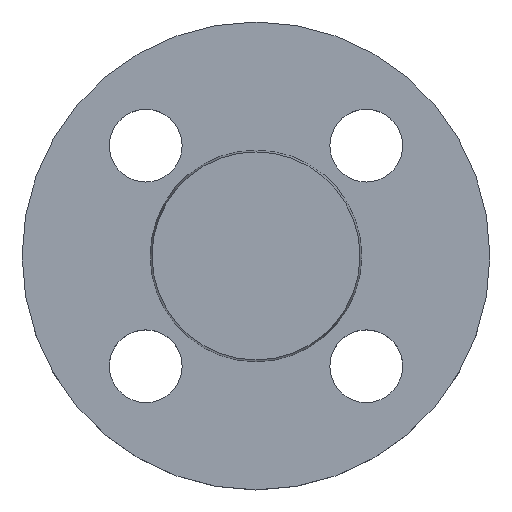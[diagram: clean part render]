
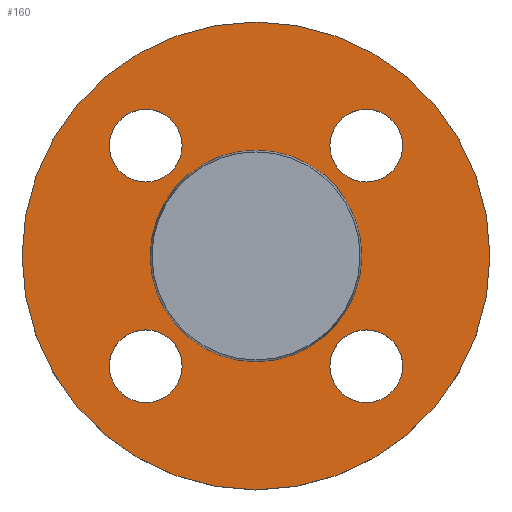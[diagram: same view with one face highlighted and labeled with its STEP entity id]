
A CAD part, top view. The second image highlights one B-rep face of the part: STEP entity #160.
In plain terms, the highlighted planar face has unit normal (0, 0, 1).
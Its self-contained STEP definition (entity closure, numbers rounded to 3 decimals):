
#3 = AXIS2_PLACEMENT_3D ( 'NONE', #587, #588, #589 ) ;
#5 = AXIS2_PLACEMENT_3D ( 'NONE', #597, #598, #600 ) ;
#6 = CIRCLE ( 'NONE', #3, 7. ) ;
#17 = CIRCLE ( 'NONE', #122, 20.353 ) ;
#19 = CIRCLE ( 'NONE', #51, 45. ) ;
#22 = DIRECTION ( 'NONE',  ( -1., 0., 0. ) ) ;
#26 = CARTESIAN_POINT ( 'NONE',  ( -21.213, -21.213, -2. ) ) ;
#35 = CIRCLE ( 'NONE', #620, 45. ) ;
#37 = DIRECTION ( 'NONE',  ( 0., 0., -1. ) ) ;
#44 = DIRECTION ( 'NONE',  ( 1., 0., 0. ) ) ;
#51 = AXIS2_PLACEMENT_3D ( 'NONE', #524, #525, #526 ) ;
#53 = CIRCLE ( 'NONE', #221, 7. ) ;
#55 = CIRCLE ( 'NONE', #74, 7. ) ;
#58 = EDGE_CURVE ( 'NONE', #319, #419, #19, .T. ) ;
#61 = CIRCLE ( 'NONE', #200, 7. ) ;
#67 = EDGE_CURVE ( 'NONE', #458, #467, #55, .T. ) ;
#68 = DIRECTION ( 'NONE',  ( 0., 0., -1. ) ) ;
#70 = CARTESIAN_POINT ( 'NONE',  ( 21.213, -21.213, -2. ) ) ;
#74 = AXIS2_PLACEMENT_3D ( 'NONE', #527, #528, #530 ) ;
#77 = DIRECTION ( 'NONE',  ( 1., 0., 0. ) ) ;
#78 = EDGE_CURVE ( 'NONE', #425, #408, #120, .T. ) ;
#79 = EDGE_CURVE ( 'NONE', #340, #475, #17, .T. ) ;
#82 = CARTESIAN_POINT ( 'NONE',  ( 20.353, 0., -2. ) ) ;
#96 = EDGE_CURVE ( 'NONE', #408, #425, #285, .T. ) ;
#106 = EDGE_CURVE ( 'NONE', #419, #319, #35, .T. ) ;
#117 = CIRCLE ( 'NONE', #158, 7. ) ;
#120 = CIRCLE ( 'NONE', #359, 7. ) ;
#122 = AXIS2_PLACEMENT_3D ( 'NONE', #542, #543, #544 ) ;
#135 = CARTESIAN_POINT ( 'NONE',  ( -28.213, -21.213, -2. ) ) ;
#139 = CARTESIAN_POINT ( 'NONE',  ( -45., 0., -2. ) ) ;
#149 = CARTESIAN_POINT ( 'NONE',  ( -20.353, 0., -2. ) ) ;
#156 = EDGE_CURVE ( 'NONE', #471, #363, #6, .T. ) ;
#158 = AXIS2_PLACEMENT_3D ( 'NONE', #621, #622, #623 ) ;
#160 = ADVANCED_FACE ( 'NONE', ( #590, #591, #592, #593, #594, #595 ), #596, .T. ) ;
#163 = CARTESIAN_POINT ( 'NONE',  ( 28.213, -21.213, -2. ) ) ;
#196 = DIRECTION ( 'NONE',  ( 0., 0., -1. ) ) ;
#198 = CARTESIAN_POINT ( 'NONE',  ( 0., 0., -2. ) ) ;
#200 = AXIS2_PLACEMENT_3D ( 'NONE', #26, #37, #77 ) ;
#219 = CARTESIAN_POINT ( 'NONE',  ( -28.213, 21.213, -2. ) ) ;
#221 = AXIS2_PLACEMENT_3D ( 'NONE', #70, #68, #44 ) ;
#222 = CARTESIAN_POINT ( 'NONE',  ( -14.213, -21.213, -2. ) ) ;
#223 = EDGE_CURVE ( 'NONE', #410, #313, #117, .T. ) ;
#226 = AXIS2_PLACEMENT_3D ( 'NONE', #198, #196, #22 ) ;
#235 = EDGE_CURVE ( 'NONE', #467, #458, #247, .T. ) ;
#239 = CARTESIAN_POINT ( 'NONE',  ( 45., 0., -2. ) ) ;
#247 = CIRCLE ( 'NONE', #427, 7. ) ;
#250 = CARTESIAN_POINT ( 'NONE',  ( -14.213, 21.213, -2. ) ) ;
#269 = CARTESIAN_POINT ( 'NONE',  ( 14.213, 21.213, -2. ) ) ;
#277 = CARTESIAN_POINT ( 'NONE',  ( 28.213, 21.213, -2. ) ) ;
#285 = CIRCLE ( 'NONE', #345, 7. ) ;
#313 = VERTEX_POINT ( 'NONE', #135 ) ;
#314 = EDGE_LOOP ( 'NONE', ( #381, #382 ) ) ;
#319 = VERTEX_POINT ( 'NONE', #139 ) ;
#320 = EDGE_LOOP ( 'NONE', ( #383, #384 ) ) ;
#340 = VERTEX_POINT ( 'NONE', #149 ) ;
#345 = AXIS2_PLACEMENT_3D ( 'NONE', #552, #553, #554 ) ;
#353 = EDGE_LOOP ( 'NONE', ( #371, #373 ) ) ;
#359 = AXIS2_PLACEMENT_3D ( 'NONE', #537, #538, #539 ) ;
#363 = VERTEX_POINT ( 'NONE', #163 ) ;
#371 = ORIENTED_EDGE ( 'NONE', *, *, #518, .T. ) ;
#373 = ORIENTED_EDGE ( 'NONE', *, *, #156, .T. ) ;
#374 = ORIENTED_EDGE ( 'NONE', *, *, #223, .T. ) ;
#375 = CARTESIAN_POINT ( 'NONE',  ( 14.213, -21.213, -2. ) ) ;
#377 = ORIENTED_EDGE ( 'NONE', *, *, #580, .T. ) ;
#378 = ORIENTED_EDGE ( 'NONE', *, *, #78, .T. ) ;
#379 = ORIENTED_EDGE ( 'NONE', *, *, #96, .T. ) ;
#381 = ORIENTED_EDGE ( 'NONE', *, *, #235, .T. ) ;
#382 = ORIENTED_EDGE ( 'NONE', *, *, #67, .T. ) ;
#383 = ORIENTED_EDGE ( 'NONE', *, *, #79, .T. ) ;
#384 = ORIENTED_EDGE ( 'NONE', *, *, #495, .T. ) ;
#385 = ORIENTED_EDGE ( 'NONE', *, *, #106, .F. ) ;
#387 = ORIENTED_EDGE ( 'NONE', *, *, #58, .F. ) ;
#408 = VERTEX_POINT ( 'NONE', #219 ) ;
#410 = VERTEX_POINT ( 'NONE', #222 ) ;
#418 = EDGE_LOOP ( 'NONE', ( #385, #387 ) ) ;
#419 = VERTEX_POINT ( 'NONE', #239 ) ;
#425 = VERTEX_POINT ( 'NONE', #250 ) ;
#427 = AXIS2_PLACEMENT_3D ( 'NONE', #634, #635, #636 ) ;
#458 = VERTEX_POINT ( 'NONE', #269 ) ;
#460 = EDGE_LOOP ( 'NONE', ( #374, #377 ) ) ;
#467 = VERTEX_POINT ( 'NONE', #277 ) ;
#471 = VERTEX_POINT ( 'NONE', #375 ) ;
#475 = VERTEX_POINT ( 'NONE', #82 ) ;
#480 = EDGE_LOOP ( 'NONE', ( #378, #379 ) ) ;
#495 = EDGE_CURVE ( 'NONE', #475, #340, #529, .T. ) ;
#518 = EDGE_CURVE ( 'NONE', #363, #471, #53, .T. ) ;
#524 = CARTESIAN_POINT ( 'NONE',  ( 0., 0., -2. ) ) ;
#525 = DIRECTION ( 'NONE',  ( 0., 0., -1. ) ) ;
#526 = DIRECTION ( 'NONE',  ( -1., 0., 0. ) ) ;
#527 = CARTESIAN_POINT ( 'NONE',  ( 21.213, 21.213, -2. ) ) ;
#528 = DIRECTION ( 'NONE',  ( 0., 0., -1. ) ) ;
#529 = CIRCLE ( 'NONE', #226, 20.353 ) ;
#530 = DIRECTION ( 'NONE',  ( 1., 0., 0. ) ) ;
#537 = CARTESIAN_POINT ( 'NONE',  ( -21.213, 21.213, -2. ) ) ;
#538 = DIRECTION ( 'NONE',  ( 0., 0., -1. ) ) ;
#539 = DIRECTION ( 'NONE',  ( 1., 0., 0. ) ) ;
#542 = CARTESIAN_POINT ( 'NONE',  ( 0., 0., -2. ) ) ;
#543 = DIRECTION ( 'NONE',  ( 0., 0., -1. ) ) ;
#544 = DIRECTION ( 'NONE',  ( -1., 0., 0. ) ) ;
#552 = CARTESIAN_POINT ( 'NONE',  ( -21.213, 21.213, -2. ) ) ;
#553 = DIRECTION ( 'NONE',  ( 0., 0., -1. ) ) ;
#554 = DIRECTION ( 'NONE',  ( 1., 0., 0. ) ) ;
#558 = CARTESIAN_POINT ( 'NONE',  ( 0., 0., -2. ) ) ;
#559 = DIRECTION ( 'NONE',  ( 0., 0., -1. ) ) ;
#560 = DIRECTION ( 'NONE',  ( -1., 0., 0. ) ) ;
#580 = EDGE_CURVE ( 'NONE', #313, #410, #61, .T. ) ;
#587 = CARTESIAN_POINT ( 'NONE',  ( 21.213, -21.213, -2. ) ) ;
#588 = DIRECTION ( 'NONE',  ( 0., 0., -1. ) ) ;
#589 = DIRECTION ( 'NONE',  ( 1., 0., 0. ) ) ;
#590 = FACE_BOUND ( 'NONE', #353, .T. ) ;
#591 = FACE_BOUND ( 'NONE', #460, .T. ) ;
#592 = FACE_BOUND ( 'NONE', #480, .T. ) ;
#593 = FACE_BOUND ( 'NONE', #314, .T. ) ;
#594 = FACE_BOUND ( 'NONE', #320, .T. ) ;
#595 = FACE_OUTER_BOUND ( 'NONE', #418, .T. ) ;
#596 = PLANE ( 'NONE',  #5 ) ;
#597 = CARTESIAN_POINT ( 'NONE',  ( 20.353, 0., -2. ) ) ;
#598 = DIRECTION ( 'NONE',  ( 0., 0., 1. ) ) ;
#600 = DIRECTION ( 'NONE',  ( 1., 0., 0. ) ) ;
#620 = AXIS2_PLACEMENT_3D ( 'NONE', #558, #559, #560 ) ;
#621 = CARTESIAN_POINT ( 'NONE',  ( -21.213, -21.213, -2. ) ) ;
#622 = DIRECTION ( 'NONE',  ( 0., 0., -1. ) ) ;
#623 = DIRECTION ( 'NONE',  ( 1., 0., 0. ) ) ;
#634 = CARTESIAN_POINT ( 'NONE',  ( 21.213, 21.213, -2. ) ) ;
#635 = DIRECTION ( 'NONE',  ( 0., 0., -1. ) ) ;
#636 = DIRECTION ( 'NONE',  ( 1., 0., 0. ) ) ;
